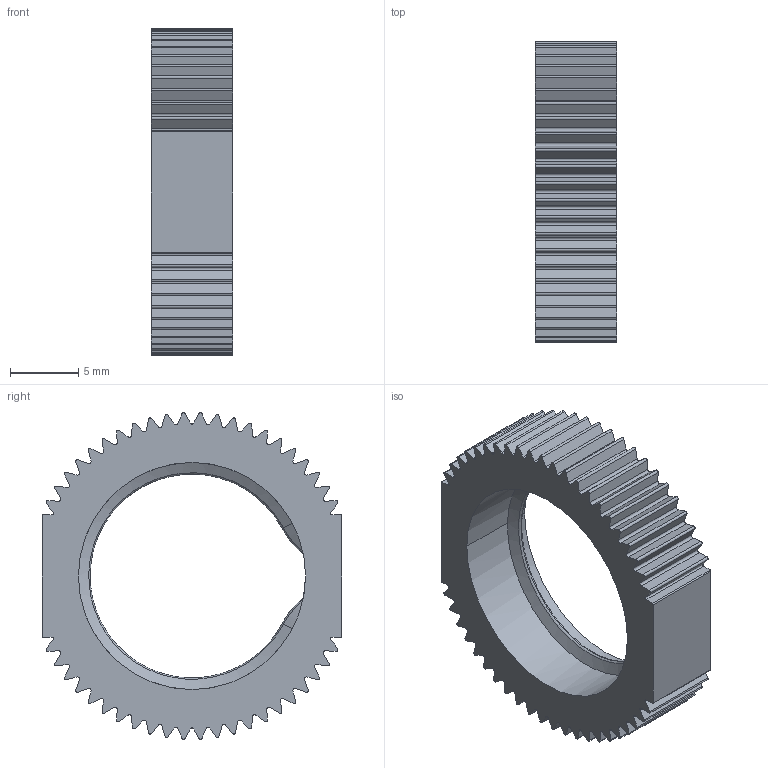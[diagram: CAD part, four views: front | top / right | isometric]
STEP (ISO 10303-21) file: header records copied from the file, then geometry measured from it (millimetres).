
FILE_DESCRIPTION(('Creo Elements/Direct Modeling STEP Export'),'2;1');
FILE_NAME('20130705_OA-05_LN-G3_8.stp','2015-04-14T13:13:02',(''),(''),'PTC Creo Elements/Direct Modeling STEP processor for AP214 (Solid Model)','PTC Creo Elements/Direct Modeling 19.0A 04-Oct-2014 (C) Parametric Technology GmbH','');
FILE_SCHEMA(('AUTOMOTIVE_DESIGN { 1 0 10303 214 1 1 1 1 }'));
Length unit declared in the file: millimetre
Products named in the file (1): LN-G3_8
Bounding box: 6 x 22 x 23.97 mm (x, y, z)
Volume: 1205.3 mm3; surface area: 1455.7 mm2
Topology: 1 solids, 1 shells, 207 faces, 609 edges, 404 vertices
Faces by surface type: cylinder 99, plane 96, bspline 12
Entity records: 7916 total; most frequent: CARTESIAN_POINT 2317, ORIENTED_EDGE 1218, DIRECTION 1156, EDGE_CURVE 609, VERTEX_POINT 404, AXIS2_PLACEMENT_3D 387, VECTOR 382, LINE 382
